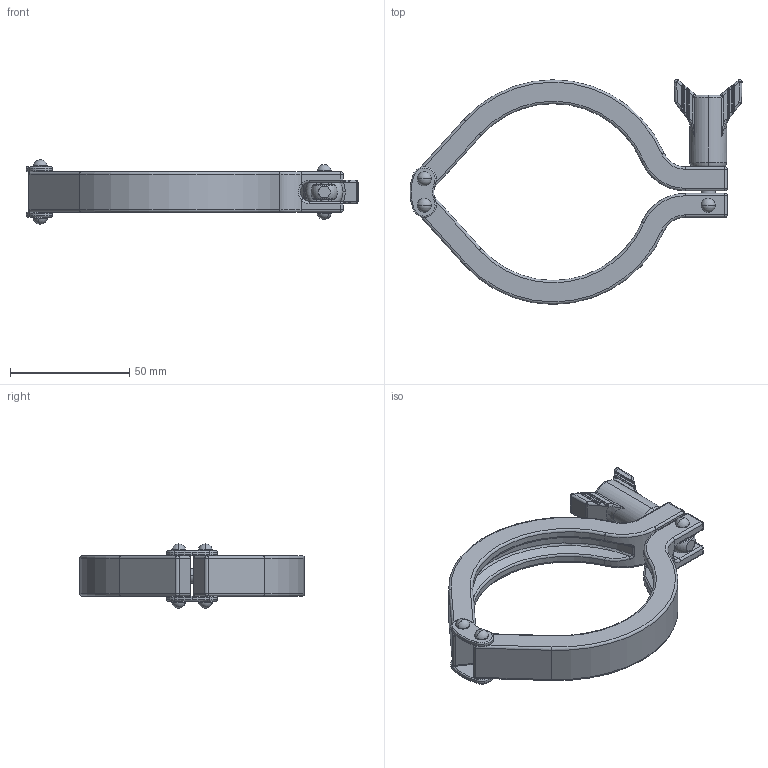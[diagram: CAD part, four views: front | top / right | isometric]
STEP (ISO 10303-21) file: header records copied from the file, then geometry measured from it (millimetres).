
FILE_DESCRIPTION (( 'STEP AP203' ), '1' );
FILE_NAME ('13MHHD3.0.STEP', '2020-02-13T03:47:43', ( '' ), ( '' ), 'SwSTEP 2.0', 'SolidWorks 2014', '' );
FILE_SCHEMA (( 'CONFIG_CONTROL_DESIGN' ));
Length unit declared in the file: millimetre
Products named in the file (10): Wing Nut 11; 13MHHD-PARTS-2; 13MHHM-PART-4; 13MHHD3.0-1; 13MHHD3.0; 13MHHD3.0-2; 13MHHD-PARTS-1; 13MHHD-PARTS-3; 13MHHD-2; 13MHHD-PARTS
Assembly tree (12 placements, depth 2):
  13MHHD3.0
    13MHHD3.0-1
    13MHHD-2  x2
    13MHHD-PARTS  x2
    13MHHD-PARTS-1  x2
    13MHHD-PARTS-2
    13MHHD-PARTS-3
    13MHHM-PART-4
    13MHHD3.0-2
    Wing Nut 11
Bounding box: 139.17 x 94.22 x 27 mm (x, y, z)
Volume: 52473.5 mm3; surface area: 26078.2 mm2
Topology: 12 solids, 12 shells, 471 faces, 1098 edges, 622 vertices
Faces by surface type: cylinder 177, torus 93, bspline 76, plane 73, sphere 48, cone 4
Entity records: 16579 total; most frequent: CARTESIAN_POINT 6223, DIRECTION 2029, ORIENTED_EDGE 1908, EDGE_CURVE 954, AXIS2_PLACEMENT_3D 876, VERTEX_POINT 550, CIRCLE 509, EDGE_LOOP 450
